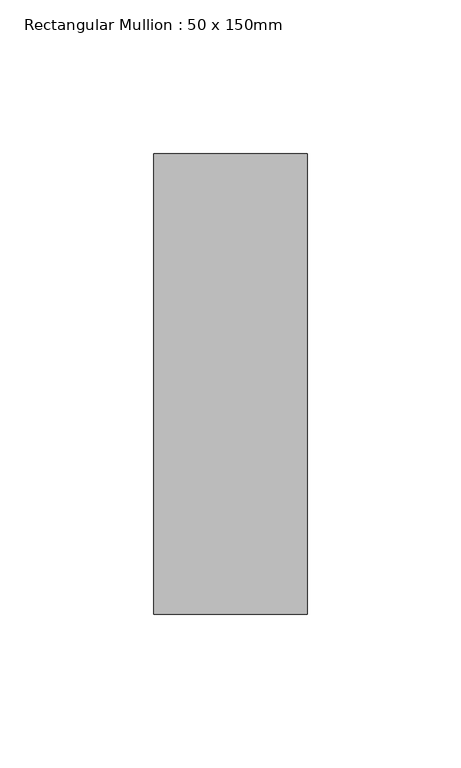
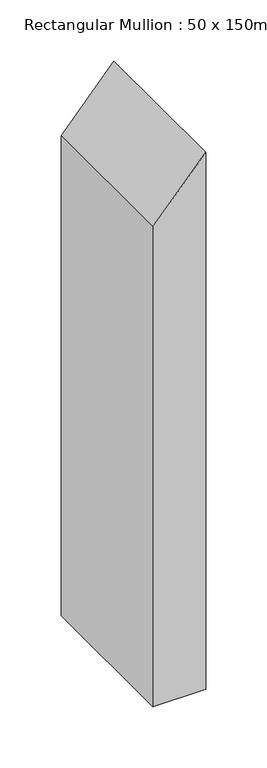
"""IFC4 building model written with IfcOpenShell, lengths in millimetres: member geometry, Rectangular Mullion : 50 x 150mm."""

from ifc_helpers import new_model, si_unit, frame, origin, place, context, project, spatial, polyline, outline, extrude, source, transform, mapped, element, save


def rectangular_mullion_50_x_150mm_d3ad9a90(model_context):
    return source(origin(), model_context, "Body", "SweptSolid", [
        extrude(outline(polyline([(-47.3292929, 25.0), (-104.3576144, -25.0), (-584.2859855, -25.0), (-584.2859855, 25.0), (-47.3292929, 25.0)])), frame((0.0, -75.0, 0.0), z_axis=(0.0, 1.0, 0.0), x_axis=(0.0, 0.0, 1.0)), (0.0, 0.0, 1.0), 150.0),
    ])


if __name__ == "__main__":
    model = new_model("IFC4")
    model_context = context("Model", 3, world=origin())
    ifc_project = project(units=[si_unit("LENGTHUNIT", "METRE", prefix="MILLI")], contexts=[model_context])
    site = spatial("IfcSite", under=ifc_project)
    building = spatial("IfcBuilding", under=site)
    placement = place(None, origin())
    rectangular_mullion_50_x_150mm_shape = rectangular_mullion_50_x_150mm_d3ad9a90(model_context)
    element("IfcMember", 1, ObjectType="Rectangular Mullion : 50 x 150mm", at=placement, inside=building, context=model_context, shape_type="MappedRepresentation", body=[
        mapped(rectangular_mullion_50_x_150mm_shape, transform((0.0, 0.0, 0.0), x_axis=(1.0, 0.0, 0.0), y_axis=(0.0, 1.0, 0.0), z_axis=(0.0, 0.0, 1.0))),
    ])
    save(model, "model.ifc")
